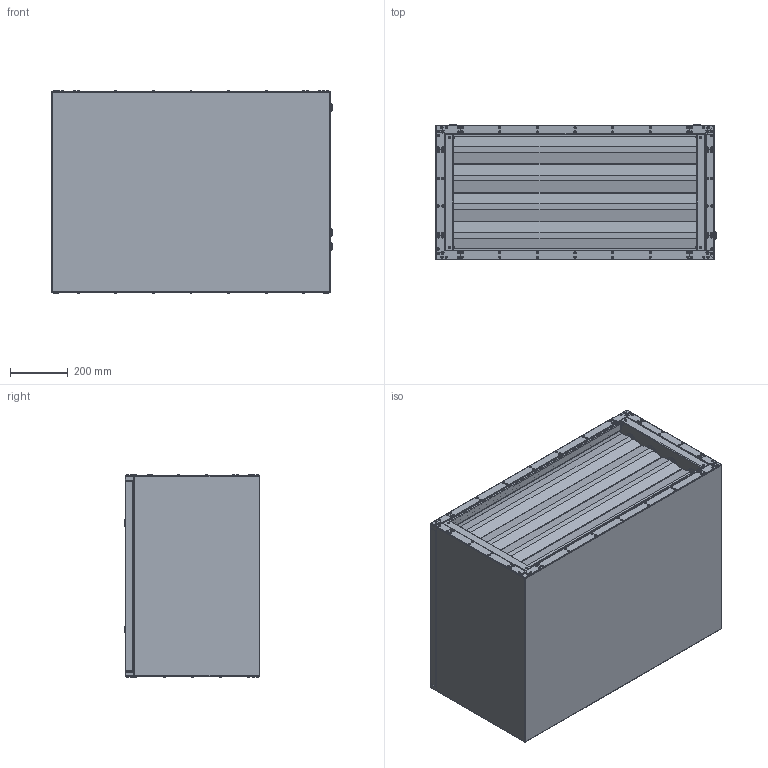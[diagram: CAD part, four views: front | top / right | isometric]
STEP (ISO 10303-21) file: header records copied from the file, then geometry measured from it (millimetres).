
FILE_DESCRIPTION (( 'STEP AP203' ), '1' );
FILE_NAME ('136182-00_SL9040E11010.STEP', '2016-03-23T13:05:33', ( '' ), ( '' ), 'SwSTEP 2.0', 'SolidWorks 2012', '' );
FILE_SCHEMA (( 'CONFIG_CONTROL_DESIGN' ));
Length unit declared in the file: millimetre
Products named in the file (1): 136182-00_SL9040E11010
Bounding box: 973.75 x 471 x 702.6 mm (x, y, z)
Surface area: 6069304 mm2 (no closed solid volume)
Topology: 0 solids, 254 shells, 1176 faces, 4539 edges, 3474 vertices
Faces by surface type: cylinder 518, plane 310, torus 300, cone 28, bspline 16, sphere 4
Entity records: 50422 total; most frequent: CARTESIAN_POINT 10821, DIRECTION 9258, ORIENTED_EDGE 6200, EDGE_CURVE 4539, AXIS2_PLACEMENT_3D 3681, VERTEX_POINT 3474, CIRCLE 2520, LINE 1896
